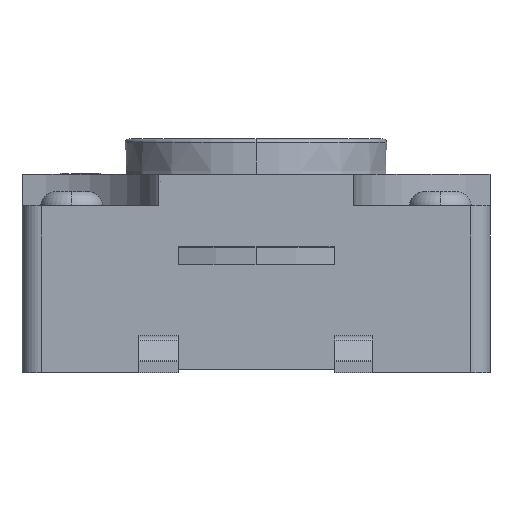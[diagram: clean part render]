
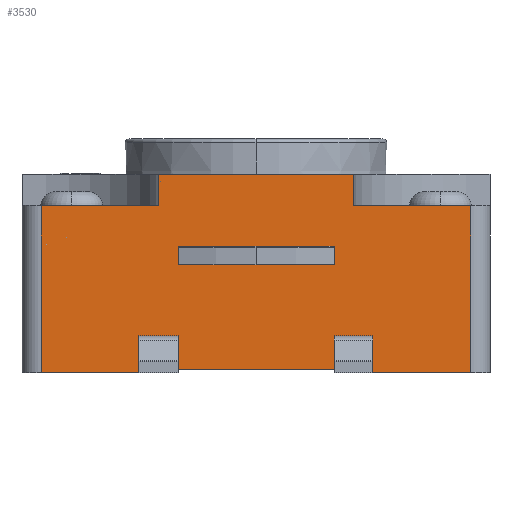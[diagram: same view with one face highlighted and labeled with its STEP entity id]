
A CAD part, left-side view. The second image highlights one B-rep face of the part: STEP entity #3530.
In plain terms, the highlighted planar face has unit normal (-1, 0, 0).
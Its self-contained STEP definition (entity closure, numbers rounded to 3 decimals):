
#654=DIRECTION('',(0.,-1.,0.));
#655=VECTOR('',#654,5.);
#656=CARTESIAN_POINT('',(-75.489,40.27,3.4));
#657=LINE('',#656,#655);
#658=DIRECTION('',(0.,1.,0.));
#659=VECTOR('',#658,1.);
#660=CARTESIAN_POINT('',(-75.489,39.77,-1.05));
#661=LINE('',#660,#659);
#662=DIRECTION('',(0.,0.,-1.));
#663=VECTOR('',#662,0.3);
#664=CARTESIAN_POINT('',(-75.489,39.77,
-0.75));
#665=LINE('',#664,#663);
#666=DIRECTION('',(0.,1.,0.));
#667=VECTOR('',#666,1.);
#668=CARTESIAN_POINT('',(-75.489,39.77,
-0.75));
#669=LINE('',#668,#667);
#670=DIRECTION('',(0.,0.,-1.));
#671=VECTOR('',#670,0.3);
#672=CARTESIAN_POINT('',(-75.489,40.77,
-0.75));
#673=LINE('',#672,#671);
#674=DIRECTION('',(0.,-1.,0.));
#675=VECTOR('',#674,1.);
#676=CARTESIAN_POINT('',(-75.489,35.77,-1.05));
#677=LINE('',#676,#675);
#678=DIRECTION('',(0.,0.,-1.));
#679=VECTOR('',#678,0.3);
#680=CARTESIAN_POINT('',(-75.489,34.77,
-0.75));
#681=LINE('',#680,#679);
#682=DIRECTION('',(0.,-1.,0.));
#683=VECTOR('',#682,1.);
#684=CARTESIAN_POINT('',(-75.489,35.77,
-0.75));
#685=LINE('',#684,#683);
#686=DIRECTION('',(0.,0.,1.));
#687=VECTOR('',#686,0.3);
#688=CARTESIAN_POINT('',(-75.489,35.77,-1.05));
#689=LINE('',#688,#687);
#690=DIRECTION('',(0.,-1.,0.));
#691=VECTOR('',#690,4.);
#692=CARTESIAN_POINT('',(-75.489,39.77,1.08));
#693=LINE('',#692,#691);
#702=DIRECTION('',(0.,0.,-1.));
#703=VECTOR('',#702,1.05);
#704=CARTESIAN_POINT('',(-75.489,43.27,2.6));
#705=LINE('',#704,#703);
#706=DIRECTION('',(0.,0.,-1.));
#707=VECTOR('',#706,3.25);
#708=CARTESIAN_POINT('',(-75.489,43.27,1.55));
#709=LINE('',#708,#707);
#852=DIRECTION('',(0.,-1.,0.));
#853=VECTOR('',#852,4.);
#854=CARTESIAN_POINT('',(-75.489,39.77,1.55));
#855=LINE('',#854,#853);
#915=DIRECTION('',(0.,0.,-1.));
#916=VECTOR('',#915,0.47);
#917=CARTESIAN_POINT('',(-75.489,35.77,1.55));
#918=LINE('',#917,#916);
#955=DIRECTION('',(0.,0.,1.));
#956=VECTOR('',#955,0.47);
#957=CARTESIAN_POINT('',(-75.489,39.77,1.08));
#958=LINE('',#957,#956);
#1058=DIRECTION('',(0.,0.,1.));
#1059=VECTOR('',#1058,3.25);
#1060=CARTESIAN_POINT('',(-75.489,32.27,-1.7));
#1061=LINE('',#1060,#1059);
#1062=DIRECTION('',(0.,0.,1.));
#1063=VECTOR('',#1062,1.05);
#1064=CARTESIAN_POINT('',(-75.489,32.27,1.55));
#1065=LINE('',#1064,#1063);
#1070=DIRECTION('',(0.,1.,0.));
#1071=VECTOR('',#1070,3.);
#1072=CARTESIAN_POINT('',(-75.489,32.27,2.6));
#1073=LINE('',#1072,#1071);
#1088=DIRECTION('',(0.,0.,1.));
#1089=VECTOR('',#1088,0.8);
#1090=CARTESIAN_POINT('',(-75.489,35.27,2.6));
#1091=LINE('',#1090,#1089);
#1134=DIRECTION('',(0.,-1.,0.));
#1135=VECTOR('',#1134,3.);
#1136=CARTESIAN_POINT('',(-75.489,35.27,-1.7));
#1137=LINE('',#1136,#1135);
#1156=DIRECTION('',(0.,0.,-1.));
#1157=VECTOR('',#1156,0.1);
#1158=CARTESIAN_POINT('',(-75.489,35.27,-1.6));
#1159=LINE('',#1158,#1157);
#1168=DIRECTION('',(0.,-1.,0.));
#1169=VECTOR('',#1168,5.);
#1170=CARTESIAN_POINT('',(-75.489,40.27,-1.6));
#1171=LINE('',#1170,#1169);
#1176=DIRECTION('',(0.,0.,1.));
#1177=VECTOR('',#1176,0.1);
#1178=CARTESIAN_POINT('',(-75.489,40.27,-1.7));
#1179=LINE('',#1178,#1177);
#1197=DIRECTION('',(0.,-1.,0.));
#1198=VECTOR('',#1197,3.);
#1199=CARTESIAN_POINT('',(-75.489,43.27,-1.7));
#1200=LINE('',#1199,#1198);
#2074=DIRECTION('',(0.,0.,-1.));
#2075=VECTOR('',#2074,0.8);
#2076=CARTESIAN_POINT('',(-75.489,40.27,3.4));
#2077=LINE('',#2076,#2075);
#2091=DIRECTION('',(0.,1.,0.));
#2092=VECTOR('',#2091,3.);
#2093=CARTESIAN_POINT('',(-75.489,40.27,2.6));
#2094=LINE('',#2093,#2092);
#2651=CARTESIAN_POINT('',(-75.489,39.77,1.08));
#2652=CARTESIAN_POINT('',(-75.489,35.77,1.08));
#2653=VERTEX_POINT('',#2651);
#2654=VERTEX_POINT('',#2652);
#2655=CARTESIAN_POINT('',(-75.489,40.27,-1.6));
#2656=CARTESIAN_POINT('',(-75.489,35.27,-1.6));
#2657=VERTEX_POINT('',#2655);
#2658=VERTEX_POINT('',#2656);
#2659=CARTESIAN_POINT('',(-75.489,40.27,-1.7));
#2660=VERTEX_POINT('',#2659);
#2691=CARTESIAN_POINT('',(-75.489,43.27,-1.7));
#2692=VERTEX_POINT('',#2691);
#2701=CARTESIAN_POINT('',(-75.489,35.27,-1.7));
#2702=VERTEX_POINT('',#2701);
#2705=CARTESIAN_POINT('',(-75.489,32.27,-1.7));
#2706=VERTEX_POINT('',#2705);
#2923=CARTESIAN_POINT('',(-75.489,40.27,3.4));
#2924=CARTESIAN_POINT('',(-75.489,35.27,3.4));
#2925=VERTEX_POINT('',#2923);
#2926=VERTEX_POINT('',#2924);
#2943=CARTESIAN_POINT('',(-75.489,40.27,2.6));
#2944=CARTESIAN_POINT('',(-75.489,43.27,2.6));
#2945=VERTEX_POINT('',#2943);
#2946=VERTEX_POINT('',#2944);
#2947=CARTESIAN_POINT('',(-75.489,32.27,2.6));
#2948=CARTESIAN_POINT('',(-75.489,35.27,2.6));
#2949=VERTEX_POINT('',#2947);
#2950=VERTEX_POINT('',#2948);
#3091=CARTESIAN_POINT('',(-75.489,39.77,-1.05));
#3092=CARTESIAN_POINT('',(-75.489,40.77,-1.05));
#3093=VERTEX_POINT('',#3091);
#3094=VERTEX_POINT('',#3092);
#3095=CARTESIAN_POINT('',(-75.489,40.77,
-0.75));
#3096=VERTEX_POINT('',#3095);
#3097=CARTESIAN_POINT('',(-75.489,39.77,
-0.75));
#3098=VERTEX_POINT('',#3097);
#3107=CARTESIAN_POINT('',(-75.489,35.77,-1.05));
#3108=CARTESIAN_POINT('',(-75.489,34.77,-1.05));
#3109=VERTEX_POINT('',#3107);
#3110=VERTEX_POINT('',#3108);
#3111=CARTESIAN_POINT('',(-75.489,34.77,
-0.75));
#3112=VERTEX_POINT('',#3111);
#3113=CARTESIAN_POINT('',(-75.489,35.77,
-0.75));
#3114=VERTEX_POINT('',#3113);
#3159=CARTESIAN_POINT('',(-75.489,39.77,1.55));
#3160=VERTEX_POINT('',#3159);
#3165=CARTESIAN_POINT('',(-75.489,35.77,1.55));
#3166=VERTEX_POINT('',#3165);
#3179=CARTESIAN_POINT('',(-75.489,43.27,1.55));
#3180=VERTEX_POINT('',#3179);
#3185=CARTESIAN_POINT('',(-75.489,32.27,1.55));
#3186=VERTEX_POINT('',#3185);
#3466=CARTESIAN_POINT('',(-75.489,37.77,-0.075));
#3467=DIRECTION('',(1.,0.,0.));
#3468=DIRECTION('',(0.,1.,0.));
#3469=AXIS2_PLACEMENT_3D('',#3466,#3467,#3468);
#3470=PLANE('',#3469);
#3472=ORIENTED_EDGE('',*,*,#3471,.F.);
#3474=ORIENTED_EDGE('',*,*,#3473,.F.);
#3476=ORIENTED_EDGE('',*,*,#3475,.F.);
#3478=ORIENTED_EDGE('',*,*,#3477,.F.);
#3479=ORIENTED_EDGE('',*,*,#3324,.T.);
#3481=ORIENTED_EDGE('',*,*,#3480,.F.);
#3483=ORIENTED_EDGE('',*,*,#3482,.F.);
#3485=ORIENTED_EDGE('',*,*,#3484,.F.);
#3487=ORIENTED_EDGE('',*,*,#3486,.F.);
#3489=ORIENTED_EDGE('',*,*,#3488,.F.);
#3491=ORIENTED_EDGE('',*,*,#3490,.F.);
#3493=ORIENTED_EDGE('',*,*,#3492,.F.);
#3495=ORIENTED_EDGE('',*,*,#3494,.F.);
#3497=ORIENTED_EDGE('',*,*,#3496,.F.);
#3498=EDGE_LOOP('',(#3472,#3474,#3476,#3478,#3479,#3481,#3483,#3485,#3487,#3489,
#3491,#3493,#3495,#3497));
#3499=FACE_OUTER_BOUND('',#3498,.F.);
#3501=ORIENTED_EDGE('',*,*,#3500,.F.);
#3503=ORIENTED_EDGE('',*,*,#3502,.F.);
#3505=ORIENTED_EDGE('',*,*,#3504,.T.);
#3507=ORIENTED_EDGE('',*,*,#3506,.T.);
#3508=EDGE_LOOP('',(#3501,#3503,#3505,#3507));
#3509=FACE_BOUND('',#3508,.F.);
#3511=ORIENTED_EDGE('',*,*,#3510,.T.);
#3513=ORIENTED_EDGE('',*,*,#3512,.F.);
#3515=ORIENTED_EDGE('',*,*,#3514,.F.);
#3517=ORIENTED_EDGE('',*,*,#3516,.F.);
#3518=EDGE_LOOP('',(#3511,#3513,#3515,#3517));
#3519=FACE_BOUND('',#3518,.F.);
#3521=ORIENTED_EDGE('',*,*,#3520,.F.);
#3523=ORIENTED_EDGE('',*,*,#3522,.F.);
#3525=ORIENTED_EDGE('',*,*,#3524,.F.);
#3527=ORIENTED_EDGE('',*,*,#3526,.T.);
#3528=EDGE_LOOP('',(#3521,#3523,#3525,#3527));
#3529=FACE_BOUND('',#3528,.F.);
#3324=EDGE_CURVE('',#2925,#2926,#657,.T.);
#3471=EDGE_CURVE('',#3180,#2692,#709,.T.);
#3473=EDGE_CURVE('',#2946,#3180,#705,.T.);
#3475=EDGE_CURVE('',#2945,#2946,#2094,.T.);
#3477=EDGE_CURVE('',#2925,#2945,#2077,.T.);
#3480=EDGE_CURVE('',#2950,#2926,#1091,.T.);
#3482=EDGE_CURVE('',#2949,#2950,#1073,.T.);
#3484=EDGE_CURVE('',#3186,#2949,#1065,.T.);
#3486=EDGE_CURVE('',#2706,#3186,#1061,.T.);
#3488=EDGE_CURVE('',#2702,#2706,#1137,.T.);
#3490=EDGE_CURVE('',#2658,#2702,#1159,.T.);
#3492=EDGE_CURVE('',#2657,#2658,#1171,.T.);
#3494=EDGE_CURVE('',#2660,#2657,#1179,.T.);
#3496=EDGE_CURVE('',#2692,#2660,#1200,.T.);
#3500=EDGE_CURVE('',#3093,#3094,#661,.T.);
#3502=EDGE_CURVE('',#3098,#3093,#665,.T.);
#3504=EDGE_CURVE('',#3098,#3096,#669,.T.);
#3506=EDGE_CURVE('',#3096,#3094,#673,.T.);
#3510=EDGE_CURVE('',#3109,#3110,#677,.T.);
#3512=EDGE_CURVE('',#3112,#3110,#681,.T.);
#3514=EDGE_CURVE('',#3114,#3112,#685,.T.);
#3516=EDGE_CURVE('',#3109,#3114,#689,.T.);
#3520=EDGE_CURVE('',#3166,#2654,#918,.T.);
#3522=EDGE_CURVE('',#3160,#3166,#855,.T.);
#3524=EDGE_CURVE('',#2653,#3160,#958,.T.);
#3526=EDGE_CURVE('',#2653,#2654,#693,.T.);
#3530=ADVANCED_FACE('',(#3499,#3509,#3519,#3529),#3470,.F.);
